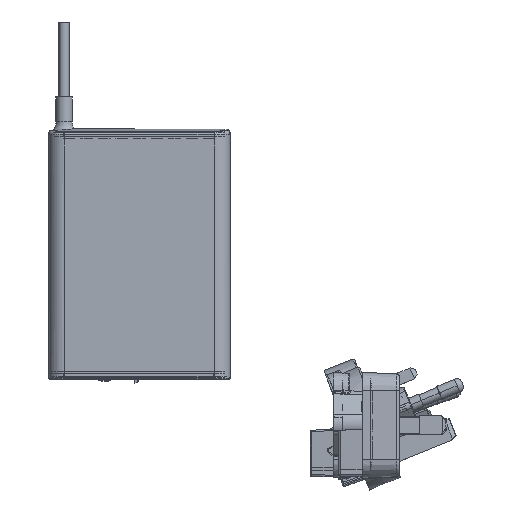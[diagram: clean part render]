
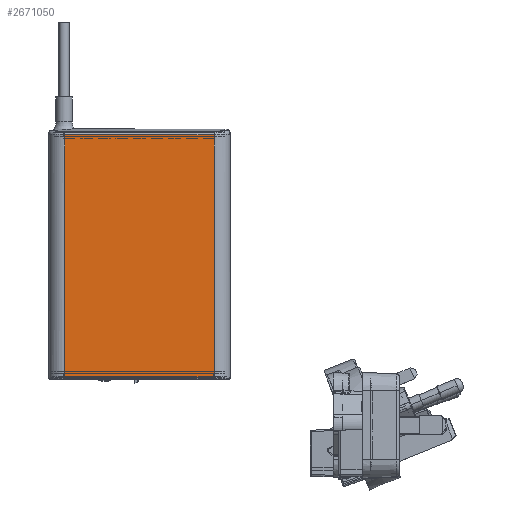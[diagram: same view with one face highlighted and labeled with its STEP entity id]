
A CAD part, top view. The second image highlights one B-rep face of the part: STEP entity #2671050.
In plain terms, the highlighted planar face has unit normal (0, 0, 1).
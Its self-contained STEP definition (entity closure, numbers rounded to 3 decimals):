
#2664630=CARTESIAN_POINT('',(-24.715,153.683,
21.101));
#2664640=VERTEX_POINT('',#2664630);
#2665100=CARTESIAN_POINT('',(26.285,153.683,
21.101));
#2665110=VERTEX_POINT('',#2665100);
#2665140=CARTESIAN_POINT('',(-24.715,153.683,
21.101));
#2665150=DIRECTION('',(1.,0.,0.));
#2665160=VECTOR('',#2665150,1.);
#2665170=LINE('',#2665140,#2665160);
#2665180=EDGE_CURVE('',#2664640,#2665110,#2665170,.T.);
#2667660=CARTESIAN_POINT('',(26.285,70.55,21.101));
#2667670=VERTEX_POINT('',#2667660);
#2667700=CARTESIAN_POINT('',(26.285,153.683,
21.101));
#2667710=DIRECTION('',(0.,-1.,0.));
#2667720=VECTOR('',#2667710,1.);
#2667730=LINE('',#2667700,#2667720);
#2667740=EDGE_CURVE('',#2665110,#2667670,#2667730,.T.);
#2670420=CARTESIAN_POINT('',(-24.715,70.55,21.101));
#2670430=VERTEX_POINT('',#2670420);
#2670720=CARTESIAN_POINT('',(-24.715,70.55,21.101));
#2670730=DIRECTION('',(0.,1.,0.));
#2670740=VECTOR('',#2670730,1.);
#2670750=LINE('',#2670720,#2670740);
#2670760=EDGE_CURVE('',#2670430,#2664640,#2670750,.T.);
#2670890=CARTESIAN_POINT('',(0.785,114.,21.101));
#2670900=DIRECTION('',(0.,0.,-1.));
#2670910=DIRECTION('',(0.,1.,0.));
#2670920=AXIS2_PLACEMENT_3D('',#2670890,#2670900,#2670910);
#2670930=PLANE('',#2670920);
#2670940=ORIENTED_EDGE('',*,*,#2670760,.F.);
#2670950=ORIENTED_EDGE('',*,*,#2665180,.F.);
#2670960=ORIENTED_EDGE('',*,*,#2667740,.F.);
#2670970=CARTESIAN_POINT('',(26.285,70.55,21.101));
#2670980=DIRECTION('',(-1.,0.,0.));
#2670990=VECTOR('',#2670980,1.);
#2671000=LINE('',#2670970,#2670990);
#2671010=EDGE_CURVE('',#2667670,#2670430,#2671000,.T.);
#2671020=ORIENTED_EDGE('',*,*,#2671010,.F.);
#2671030=EDGE_LOOP('',(#2671020,#2670960,#2670950,#2670940));
#2671040=FACE_OUTER_BOUND('',#2671030,.T.);
#2671050=ADVANCED_FACE('',(#2671040),#2670930,.F.);
